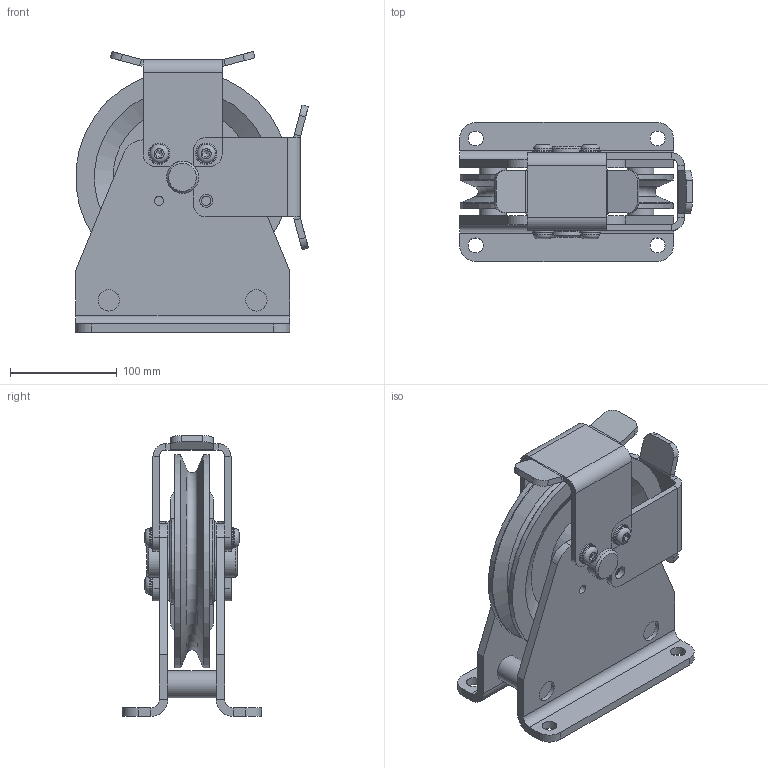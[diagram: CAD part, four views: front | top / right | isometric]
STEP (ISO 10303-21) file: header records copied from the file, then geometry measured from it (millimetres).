
FILE_DESCRIPTION(/* description */ ('Seilrollenbock Seilniederhalter ø200 Stahl Gleitlager komplett'),/* implementation_level */ '2;1');
FILE_NAME(/* name */ 'Z:\Workspace\03 Seilrollen\1.406 Seilrollenbock Seilniederhalter Gleitlager\1.406.06 Seilrollenbock Seilniederhalter ø200 Stahl Gleitlager\1.406.06 Seilrollenbock Seilniederhalter ø200 Stahl Gleitlager komplett.stp',/* time_stamp */ '2021-10-08T12:14:53+02:00',/* author */ ('cad-user'),/* organization */ (''),/* preprocessor_version */ 'ST-DEVELOPER v18',/* originating_system */ 'Autodesk Inventor 2020',/* authorisation */ '');
FILE_SCHEMA (('AUTOMOTIVE_DESIGN { 1 0 10303 214 3 1 1 }'));
Length unit declared in the file: millimetre
Products named in the file (11): 1.406.06 Seilrollenbock Seilniederhalter ø200 Stahl Gleitlager ko
mplett; 1.405.06.01 Seilrollenbock Schweißteil; 1.405.06.01 Blech; 1.405.06.01 Distanzachse; 1.401.06 Seilrolle ø200 Buchse komplett; 1.401.06 Seilrolle ø200 Buchse B=42; 3020DU; 1.405.06.02 Achse; 1.406.06.03 Seilniederhalter ø200; ISO 7380 - M10 x 16; DIN 125-1 - B 10,5
Assembly tree (22 placements, depth 3):
  1.406.06 Seilrollenbock Seilniederhalter ø200 Stahl Gleitlager ko
mplett
    1.405.06.01 Seilrollenbock Schweißteil
      1.405.06.01 Blech  x2
      1.405.06.01 Distanzachse  x2
    1.401.06 Seilrolle ø200 Buchse komplett
      1.401.06 Seilrolle ø200 Buchse B=42
      3020DU  x2
    1.405.06.02 Achse
    DIN 125-1 - B 10,5  x5
    1.406.06.03 Seilniederhalter ø200  x2
    ISO 7380 - M10 x 16  x5
Bounding box: 217.56 x 130 x 262.56 mm (x, y, z)
Volume: 1550708.4 mm3; surface area: 389258.1 mm2
Topology: 20 solids, 20 shells, 327 faces, 792 edges, 518 vertices
Faces by surface type: plane 181, cylinder 106, cone 27, torus 13
Full cylindrical faces by diameter (mm): 8.376 x8, 10 x5, 10.5 x5, 12 x8, 14 x4, 17.5 x5, 20 x13, 25 x2, 30 x3, 34 x1, 80 x2, 200 x2
Entity records: 4993 total; most frequent: DIRECTION 891, CARTESIAN_POINT 797, ORIENTED_EDGE 726, EDGE_CURVE 363, AXIS2_PLACEMENT_3D 353, VERTEX_POINT 238, EDGE_LOOP 187, LINE 185
